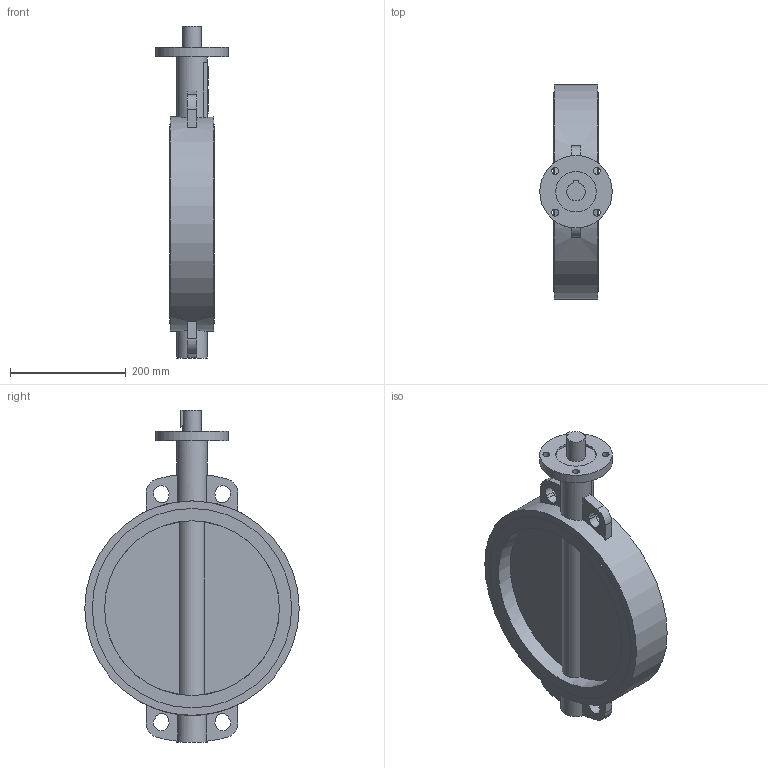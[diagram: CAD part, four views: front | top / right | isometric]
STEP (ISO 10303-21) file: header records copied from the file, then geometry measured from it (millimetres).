
FILE_DESCRIPTION(('STEP AP203'), '1');
FILE_NAME('Çàòâîð 017W.Z(ñòàëü) DN300 PN10_16 áåç èñï. ìåõ-ìà', '', ('UNSPECIFIED'), ('UNSPECIFIED'), 'ASCON STEP Converter 1.6', 'ASCON Math Kernel', '');
FILE_SCHEMA(('CONFIG_CONTROL_DESIGN'));
Length unit declared in the file: millimetre
Bounding box: 125 x 370 x 573 mm (x, y, z)
Volume: 5095203.5 mm3; surface area: 444118.7 mm2
Topology: 1 solids, 1 shells, 793 faces, 2291 edges, 1527 vertices
Faces by surface type: cylinder 619, plane 174
Full cylindrical faces by diameter (mm): 12 x4, 31.6 x1, 52 x2, 70 x1, 125 x1, 301.6 x2, 344 x2, 370 x1
Entity records: 33783 total; most frequent: CARTESIAN_POINT 5326, DIRECTION 5094, ORIENTED_EDGE 4554, EDGE_CURVE 2277, AXIS2_PLACEMENT_3D 2040, VERTEX_POINT 1527, CIRCLE 1246, LINE 1014
